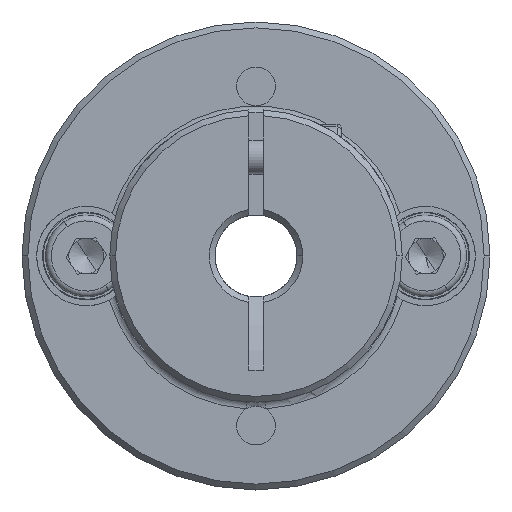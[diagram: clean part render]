
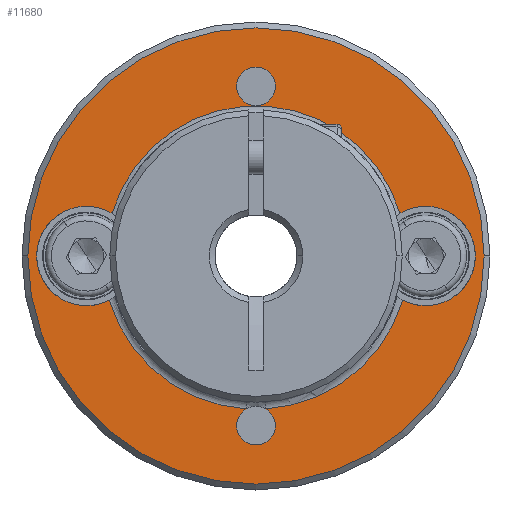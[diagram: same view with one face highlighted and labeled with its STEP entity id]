
A CAD part, front view. The second image highlights one B-rep face of the part: STEP entity #11680.
In plain terms, the highlighted planar face has unit normal (0, -1, 0).
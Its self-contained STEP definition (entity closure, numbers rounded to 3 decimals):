
#26 = EDGE_CURVE ( 'NONE', #10719, #3181, #11167, .T. ) ;
#34 = DIRECTION ( 'NONE',  ( 0., 1., 0. ) ) ;
#60 = ORIENTED_EDGE ( 'NONE', *, *, #4992, .T. ) ;
#102 = DIRECTION ( 'NONE',  ( 0., 1., 0. ) ) ;
#207 = VERTEX_POINT ( 'NONE', #233 ) ;
#233 = CARTESIAN_POINT ( 'NONE',  ( -10.355, -13.63, 25.5 ) ) ;
#836 = EDGE_CURVE ( 'NONE', #9791, #6835, #7759, .T. ) ;
#948 = CARTESIAN_POINT ( 'NONE',  ( -12.005, -13.63, 40. ) ) ;
#1033 = AXIS2_PLACEMENT_3D ( 'NONE', #6004, #8886, #8792 ) ;
#1361 = ORIENTED_EDGE ( 'NONE', *, *, #836, .T. ) ;
#1475 = PLANE ( 'NONE',  #1922 ) ;
#1511 = CIRCLE ( 'NONE', #2038, 1.65 ) ;
#1574 = DIRECTION ( 'NONE',  ( 1., 0., 0. ) ) ;
#1660 = VERTEX_POINT ( 'NONE', #12599 ) ;
#1922 = AXIS2_PLACEMENT_3D ( 'NONE', #11375, #9440, #3535 ) ;
#2005 = CARTESIAN_POINT ( 'NONE',  ( 7.495, -13.63, 40. ) ) ;
#2027 = VERTEX_POINT ( 'NONE', #12207 ) ;
#2038 = AXIS2_PLACEMENT_3D ( 'NONE', #8870, #7883, #9040 ) ;
#2219 = ORIENTED_EDGE ( 'NONE', *, *, #2504, .T. ) ;
#2339 = CARTESIAN_POINT ( 'NONE',  ( -12.005, -13.63, 40. ) ) ;
#2472 = CIRCLE ( 'NONE', #3897, 13.1 ) ;
#2504 = EDGE_CURVE ( 'NONE', #9130, #207, #8536, .T. ) ;
#2512 = CARTESIAN_POINT ( 'NONE',  ( -12.834, -13.63, 26.926 ) ) ;
#2540 = CARTESIAN_POINT ( 'NONE',  ( -12.005, -13.63, 25.5 ) ) ;
#2751 = ORIENTED_EDGE ( 'NONE', *, *, #3151, .T. ) ;
#2833 = CARTESIAN_POINT ( 'NONE',  ( -12.005, -13.63, 54.5 ) ) ;
#3017 = ORIENTED_EDGE ( 'NONE', *, *, #4567, .T. ) ;
#3150 = VERTEX_POINT ( 'NONE', #12769 ) ;
#3151 = EDGE_CURVE ( 'NONE', #7316, #8645, #8827, .T. ) ;
#3181 = VERTEX_POINT ( 'NONE', #10042 ) ;
#3360 = CIRCLE ( 'NONE', #5007, 4.25 ) ;
#3535 = DIRECTION ( 'NONE',  ( 1., 0., 0. ) ) ;
#3556 = DIRECTION ( 'NONE',  ( 0., 1., 0. ) ) ;
#3584 = CARTESIAN_POINT ( 'NONE',  ( 2.495, -13.63, 40. ) ) ;
#3593 = ORIENTED_EDGE ( 'NONE', *, *, #10512, .T. ) ;
#3636 = ORIENTED_EDGE ( 'NONE', *, *, #4312, .T. ) ;
#3848 = DIRECTION ( 'NONE',  ( 1., 0., 0. ) ) ;
#3897 = AXIS2_PLACEMENT_3D ( 'NONE', #5216, #102, #7068 ) ;
#3908 = EDGE_LOOP ( 'NONE', ( #3636, #10313 ) ) ;
#3934 = CARTESIAN_POINT ( 'NONE',  ( -24.307, -13.63, 43.638 ) ) ;
#3987 = DIRECTION ( 'NONE',  ( 0., 1., 0. ) ) ;
#4040 = AXIS2_PLACEMENT_3D ( 'NONE', #5832, #34, #11752 ) ;
#4055 = ORIENTED_EDGE ( 'NONE', *, *, #8561, .T. ) ;
#4136 = AXIS2_PLACEMENT_3D ( 'NONE', #6500, #8499, #1574 ) ;
#4292 = EDGE_CURVE ( 'NONE', #8645, #2027, #10201, .T. ) ;
#4312 = EDGE_CURVE ( 'NONE', #3181, #10719, #12354, .T. ) ;
#4347 = DIRECTION ( 'NONE',  ( 0., 1., 0. ) ) ;
#4567 = EDGE_CURVE ( 'NONE', #3150, #7316, #4823, .T. ) ;
#4630 = CIRCLE ( 'NONE', #7167, 13.1 ) ;
#4665 = CIRCLE ( 'NONE', #7225, 19.5 ) ;
#4689 = DIRECTION ( 'NONE',  ( 1., 0., 0. ) ) ;
#4823 = CIRCLE ( 'NONE', #1033, 4.25 ) ;
#4881 = DIRECTION ( 'NONE',  ( 1., 0., 0. ) ) ;
#4920 = DIRECTION ( 'NONE',  ( 0., 1., 0. ) ) ;
#4992 = EDGE_CURVE ( 'NONE', #207, #7476, #1511, .T. ) ;
#5007 = AXIS2_PLACEMENT_3D ( 'NONE', #11409, #10810, #4689 ) ;
#5216 = CARTESIAN_POINT ( 'NONE',  ( -12.005, -13.63, 40. ) ) ;
#5319 = AXIS2_PLACEMENT_3D ( 'NONE', #2540, #3556, #9504 ) ;
#5454 = DIRECTION ( 'NONE',  ( 0., 1., 0. ) ) ;
#5796 = DIRECTION ( 'NONE',  ( 0., -1., 0. ) ) ;
#5832 = CARTESIAN_POINT ( 'NONE',  ( -12.005, -13.63, 40. ) ) ;
#5879 = CARTESIAN_POINT ( 'NONE',  ( -31.505, -13.63, 40. ) ) ;
#5988 = FACE_BOUND ( 'NONE', #3908, .T. ) ;
#6004 = CARTESIAN_POINT ( 'NONE',  ( -26.505, -13.63, 40. ) ) ;
#6500 = CARTESIAN_POINT ( 'NONE',  ( -12.005, -13.63, 54.5 ) ) ;
#6805 = AXIS2_PLACEMENT_3D ( 'NONE', #7971, #9861, #10770 ) ;
#6835 = VERTEX_POINT ( 'NONE', #2005 ) ;
#7068 = DIRECTION ( 'NONE',  ( 1., 0., 0. ) ) ;
#7088 = AXIS2_PLACEMENT_3D ( 'NONE', #2339, #12200, #12124 ) ;
#7167 = AXIS2_PLACEMENT_3D ( 'NONE', #948, #4920, #4881 ) ;
#7225 = AXIS2_PLACEMENT_3D ( 'NONE', #12685, #5796, #3848 ) ;
#7316 = VERTEX_POINT ( 'NONE', #3934 ) ;
#7337 = DIRECTION ( 'NONE',  ( 1., 0., 0. ) ) ;
#7476 = VERTEX_POINT ( 'NONE', #11069 ) ;
#7529 = EDGE_CURVE ( 'NONE', #8135, #3150, #11477, .T. ) ;
#7537 = ORIENTED_EDGE ( 'NONE', *, *, #10530, .T. ) ;
#7681 = FACE_OUTER_BOUND ( 'NONE', #10803, .T. ) ;
#7759 = CIRCLE ( 'NONE', #7088, 19.5 ) ;
#7883 = DIRECTION ( 'NONE',  ( 0., 1., 0. ) ) ;
#7971 = CARTESIAN_POINT ( 'NONE',  ( -12.005, -13.63, 25.5 ) ) ;
#7973 = CARTESIAN_POINT ( 'NONE',  ( -10.355, -13.63, 54.5 ) ) ;
#8135 = VERTEX_POINT ( 'NONE', #11834 ) ;
#8231 = CARTESIAN_POINT ( 'NONE',  ( -26.505, -13.63, 40. ) ) ;
#8445 = EDGE_CURVE ( 'NONE', #7476, #11557, #8826, .T. ) ;
#8499 = DIRECTION ( 'NONE',  ( 0., 1., 0. ) ) ;
#8506 = AXIS2_PLACEMENT_3D ( 'NONE', #3584, #5454, #12319 ) ;
#8521 = ORIENTED_EDGE ( 'NONE', *, *, #9048, .T. ) ;
#8536 = CIRCLE ( 'NONE', #5319, 1.65 ) ;
#8561 = EDGE_CURVE ( 'NONE', #1660, #9130, #2472, .T. ) ;
#8645 = VERTEX_POINT ( 'NONE', #11141 ) ;
#8792 = DIRECTION ( 'NONE',  ( 1., 0., 0. ) ) ;
#8826 = CIRCLE ( 'NONE', #6805, 1.65 ) ;
#8827 = CIRCLE ( 'NONE', #4040, 12.829 ) ;
#8870 = CARTESIAN_POINT ( 'NONE',  ( -12.005, -13.63, 25.5 ) ) ;
#8886 = DIRECTION ( 'NONE',  ( 0., 1., 0. ) ) ;
#9040 = DIRECTION ( 'NONE',  ( 1., 0., 0. ) ) ;
#9048 = EDGE_CURVE ( 'NONE', #6835, #9791, #4665, .T. ) ;
#9130 = VERTEX_POINT ( 'NONE', #10874 ) ;
#9440 = DIRECTION ( 'NONE',  ( 0., -1., 0. ) ) ;
#9504 = DIRECTION ( 'NONE',  ( 1., 0., 0. ) ) ;
#9728 = AXIS2_PLACEMENT_3D ( 'NONE', #8231, #4347, #7337 ) ;
#9790 = DIRECTION ( 'NONE',  ( 1., 0., 0. ) ) ;
#9791 = VERTEX_POINT ( 'NONE', #5879 ) ;
#9861 = DIRECTION ( 'NONE',  ( 0., 1., 0. ) ) ;
#10042 = CARTESIAN_POINT ( 'NONE',  ( -13.655, -13.63, 54.5 ) ) ;
#10201 = CIRCLE ( 'NONE', #8506, 4.25 ) ;
#10313 = ORIENTED_EDGE ( 'NONE', *, *, #26, .T. ) ;
#10512 = EDGE_CURVE ( 'NONE', #2027, #1660, #3360, .T. ) ;
#10530 = EDGE_CURVE ( 'NONE', #11557, #8135, #4630, .T. ) ;
#10562 = ORIENTED_EDGE ( 'NONE', *, *, #7529, .T. ) ;
#10719 = VERTEX_POINT ( 'NONE', #7973 ) ;
#10770 = DIRECTION ( 'NONE',  ( 1., 0., 0. ) ) ;
#10803 = EDGE_LOOP ( 'NONE', ( #1361, #8521 ) ) ;
#10810 = DIRECTION ( 'NONE',  ( 0., 1., 0. ) ) ;
#10874 = CARTESIAN_POINT ( 'NONE',  ( -11.175, -13.63, 26.926 ) ) ;
#11069 = CARTESIAN_POINT ( 'NONE',  ( -13.655, -13.63, 25.5 ) ) ;
#11141 = CARTESIAN_POINT ( 'NONE',  ( 0.298, -13.63, 43.638 ) ) ;
#11167 = CIRCLE ( 'NONE', #12449, 1.65 ) ;
#11223 = FACE_BOUND ( 'NONE', #12397, .T. ) ;
#11375 = CARTESIAN_POINT ( 'NONE',  ( -12.005, -13.63, 40. ) ) ;
#11409 = CARTESIAN_POINT ( 'NONE',  ( 2.495, -13.63, 40. ) ) ;
#11477 = CIRCLE ( 'NONE', #9728, 4.25 ) ;
#11515 = ORIENTED_EDGE ( 'NONE', *, *, #4292, .T. ) ;
#11557 = VERTEX_POINT ( 'NONE', #2512 ) ;
#11655 = ORIENTED_EDGE ( 'NONE', *, *, #8445, .T. ) ;
#11680 = ADVANCED_FACE ( 'NONE', ( #7681, #11223, #5988 ), #1475, .T. ) ;
#11752 = DIRECTION ( 'NONE',  ( 1., 0., 0. ) ) ;
#11834 = CARTESIAN_POINT ( 'NONE',  ( -24.55, -13.63, 36.226 ) ) ;
#12124 = DIRECTION ( 'NONE',  ( 1., 0., 0. ) ) ;
#12200 = DIRECTION ( 'NONE',  ( 0., -1., 0. ) ) ;
#12207 = CARTESIAN_POINT ( 'NONE',  ( 6.745, -13.63, 40. ) ) ;
#12319 = DIRECTION ( 'NONE',  ( 1., 0., 0. ) ) ;
#12354 = CIRCLE ( 'NONE', #4136, 1.65 ) ;
#12397 = EDGE_LOOP ( 'NONE', ( #10562, #3017, #2751, #11515, #3593, #4055, #2219, #60, #11655, #7537 ) ) ;
#12449 = AXIS2_PLACEMENT_3D ( 'NONE', #2833, #3987, #9790 ) ;
#12599 = CARTESIAN_POINT ( 'NONE',  ( 0.54, -13.63, 36.226 ) ) ;
#12685 = CARTESIAN_POINT ( 'NONE',  ( -12.005, -13.63, 40. ) ) ;
#12769 = CARTESIAN_POINT ( 'NONE',  ( -30.755, -13.63, 40. ) ) ;
